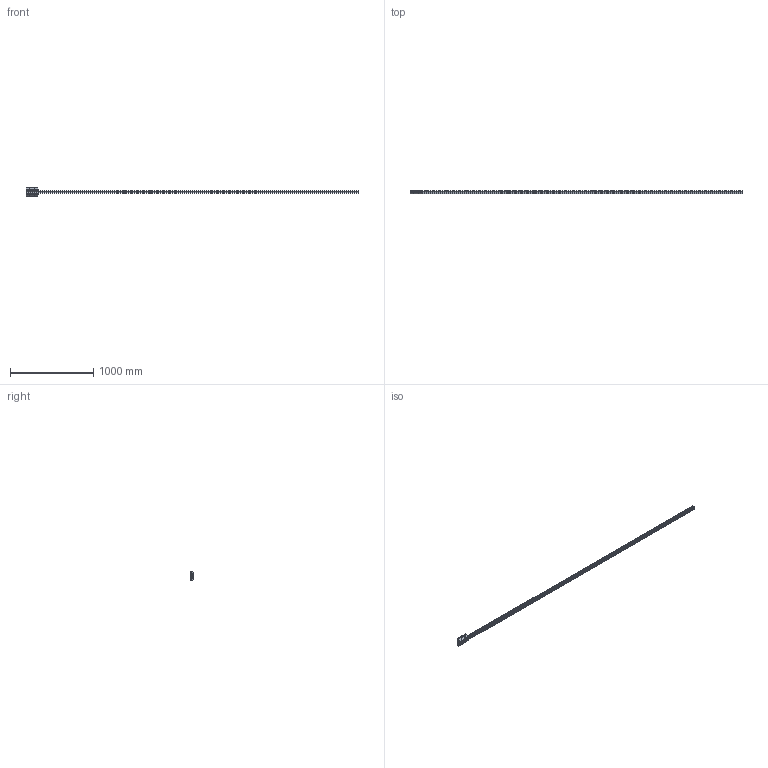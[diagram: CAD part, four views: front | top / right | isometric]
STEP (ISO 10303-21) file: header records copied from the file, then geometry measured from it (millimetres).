
FILE_DESCRIPTION( ( 'STEP AP203' ), '1' );
FILE_NAME( 'p:/temp/worker_20/temp/exporttempdir_1260_1829_RIWww/format_0/FDG35 84364LN_4000-0.stp', '2021-04-27T06:45:34', ( 'License CC BY-ND 4.0' ), ( 'CADENAS' ), ' ', 'PARTsolutions', ' ' );
FILE_SCHEMA( ( 'CONFIG_CONTROL_DESIGN' ) );
Length unit declared in the file: millimetre
Products named in the file (3): FDG35 84364LN_4000-0; _FD_35K-4000-0; _FD_35K Rollenhalter
Assembly tree (2 placements, depth 2):
  FDG35 84364LN_4000-0
    _FD_35K-4000-0
    _FD_35K Rollenhalter
Bounding box: 4000 x 48 x 100 mm (x, y, z)
Volume: 3843942.1 mm3; surface area: 736007.4 mm2
Topology: 2 solids, 2 shells, 645 faces, 1713 edges, 1155 vertices
Faces by surface type: plane 372, cylinder 262, torus 8, cone 3
Full cylindrical faces by diameter (mm): 4.2 x1, 8.376 x4, 9 x50, 10 x8, 11 x12, 15 x50
Entity records: 19327 total; most frequent: DIRECTION 3337, CARTESIAN_POINT 3324, ORIENTED_EDGE 3038, EDGE_CURVE 1519, AXIS2_PLACEMENT_3D 1181, VERTEX_POINT 1094, LINE 975, VECTOR 975
